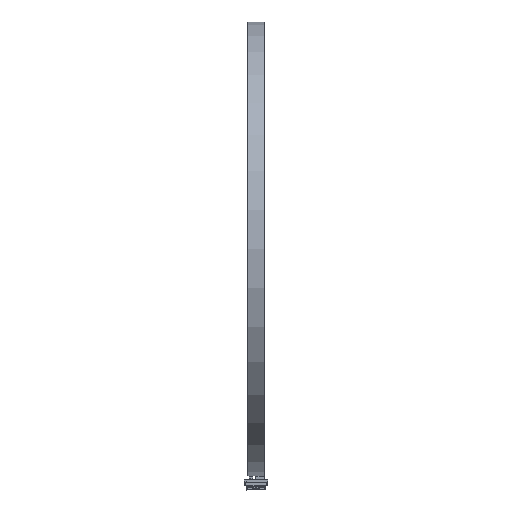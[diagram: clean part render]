
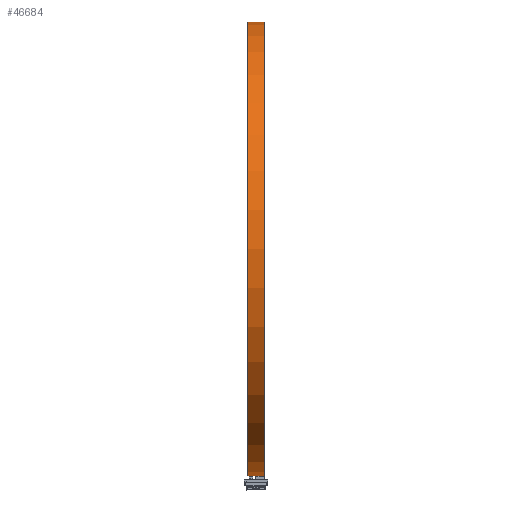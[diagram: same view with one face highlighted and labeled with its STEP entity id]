
A CAD part, left-side view. The second image highlights one B-rep face of the part: STEP entity #46684.
In plain terms, the highlighted cylindrical face has radius 162.75 mm (diameter 325.5 mm), a partial arc.
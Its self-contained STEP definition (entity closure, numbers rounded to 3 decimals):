
#704 = DIRECTION ( 'NONE',  ( 0., 0., -1. ) ) ;
#3013 = DIRECTION ( 'NONE',  ( 0., -1., 0. ) ) ;
#4794 = VERTEX_POINT ( 'NONE', #74551 ) ;
#9417 = CARTESIAN_POINT ( 'NONE',  ( 0., 12., 0. ) ) ;
#14373 = CIRCLE ( 'NONE', #80878, 162.75 ) ;
#17263 = CARTESIAN_POINT ( 'NONE',  ( 0., 0., -162.75 ) ) ;
#18294 = DIRECTION ( 'NONE',  ( 0., -1., 0. ) ) ;
#18683 = DIRECTION ( 'NONE',  ( 0., 0., -1. ) ) ;
#20944 = EDGE_CURVE ( 'NONE', #35577, #90067, #69827, .T. ) ;
#21545 = DIRECTION ( 'NONE',  ( 0., -1., 0. ) ) ;
#24718 = CARTESIAN_POINT ( 'NONE',  ( 0., 0., 0. ) ) ;
#25615 = DIRECTION ( 'NONE',  ( 0., -1., 0. ) ) ;
#35172 = EDGE_LOOP ( 'NONE', ( #83447, #37710, #89228, #71725 ) ) ;
#35577 = VERTEX_POINT ( 'NONE', #43291 ) ;
#36694 = EDGE_CURVE ( 'NONE', #85907, #90067, #80704, .T. ) ;
#37341 = AXIS2_PLACEMENT_3D ( 'NONE', #24718, #53923, #18683 ) ;
#37710 = ORIENTED_EDGE ( 'NONE', *, *, #60593, .T. ) ;
#38309 = CARTESIAN_POINT ( 'NONE',  ( 0., 0., 0. ) ) ;
#40049 = CARTESIAN_POINT ( 'NONE',  ( 0., 12., -162.75 ) ) ;
#43291 = CARTESIAN_POINT ( 'NONE',  ( 0., 0., 162.75 ) ) ;
#46684 = ADVANCED_FACE ( 'NONE', ( #59585 ), #53582, .T. ) ;
#47240 = CARTESIAN_POINT ( 'NONE',  ( 0., 0., -162.75 ) ) ;
#47516 = LINE ( 'NONE', #81267, #87751 ) ;
#50990 = AXIS2_PLACEMENT_3D ( 'NONE', #38309, #3013, #54041 ) ;
#53582 = CYLINDRICAL_SURFACE ( 'NONE', #50990, 162.75 ) ;
#53923 = DIRECTION ( 'NONE',  ( 0., -1., 0. ) ) ;
#54041 = DIRECTION ( 'NONE',  ( 0., 0., -1. ) ) ;
#55024 = VECTOR ( 'NONE', #25615, 1000. ) ;
#59585 = FACE_OUTER_BOUND ( 'NONE', #35172, .T. ) ;
#60593 = EDGE_CURVE ( 'NONE', #4794, #85907, #14373, .T. ) ;
#69827 = CIRCLE ( 'NONE', #37341, 162.75 ) ;
#71725 = ORIENTED_EDGE ( 'NONE', *, *, #20944, .F. ) ;
#74551 = CARTESIAN_POINT ( 'NONE',  ( 0., 12., 162.75 ) ) ;
#75886 = EDGE_CURVE ( 'NONE', #4794, #35577, #47516, .T. ) ;
#80704 = LINE ( 'NONE', #17263, #55024 ) ;
#80878 = AXIS2_PLACEMENT_3D ( 'NONE', #9417, #21545, #704 ) ;
#81267 = CARTESIAN_POINT ( 'NONE',  ( 0., 0., 162.75 ) ) ;
#83447 = ORIENTED_EDGE ( 'NONE', *, *, #75886, .F. ) ;
#85907 = VERTEX_POINT ( 'NONE', #40049 ) ;
#87751 = VECTOR ( 'NONE', #18294, 1000. ) ;
#89228 = ORIENTED_EDGE ( 'NONE', *, *, #36694, .T. ) ;
#90067 = VERTEX_POINT ( 'NONE', #47240 ) ;
